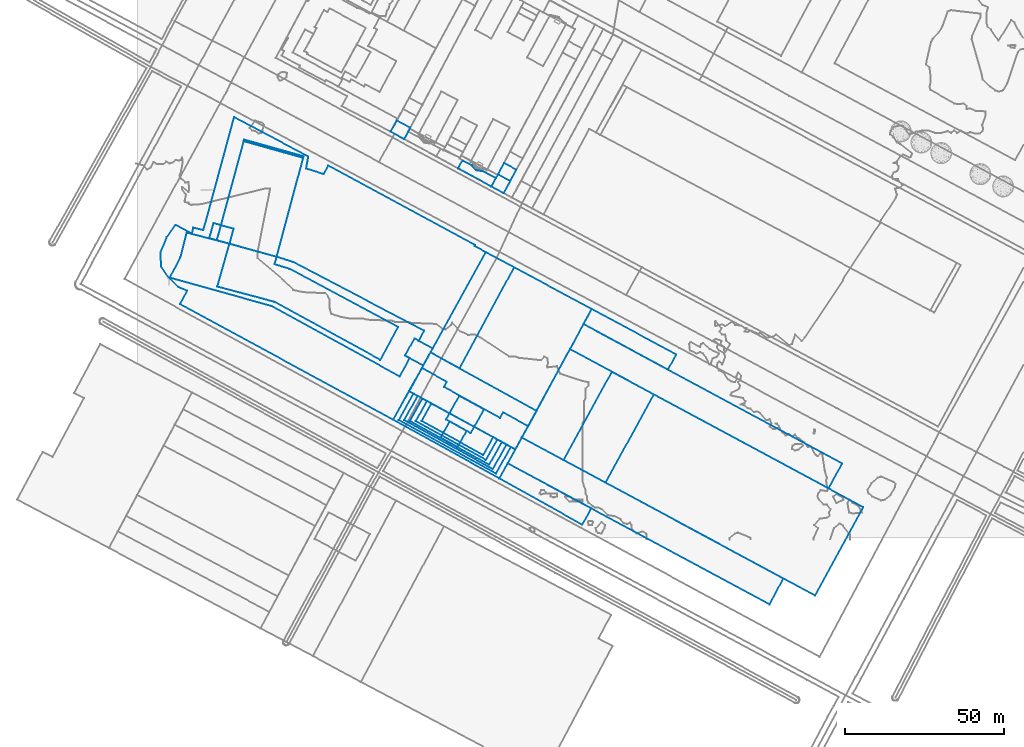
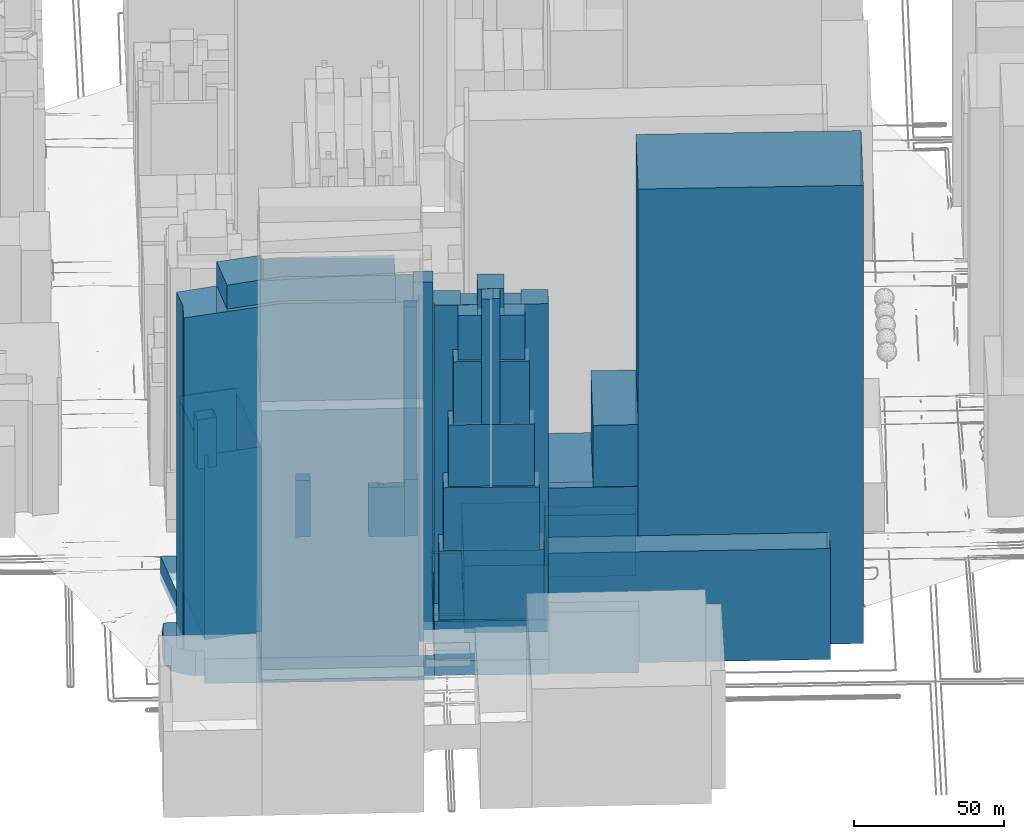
# Not in any storey, part 17 of 80: 31 walls.
"""IFC4 building model written with IfcOpenShell, lengths in metres."""

from ifc_helpers import new_model, si_unit, frame, origin_with_axes, place, context, subcontext, project, spatial, polygons, element, save


model = new_model("IFC4")

# Units and contexts
model_context = context("Model", 3, precision=1e-05, world=origin_with_axes())
body_context = subcontext(model_context, "Body", "Model", "MODEL_VIEW")
ifc_project = project(units=[si_unit("AREAUNIT", "SQUARE_METRE"), si_unit("LENGTHUNIT", "METRE")], contexts=[model_context])

# Sites, building
site_1_placement = place(None, origin_with_axes())
site_1 = spatial("IfcSite", under=ifc_project, at=site_1_placement, Name="Topoexport Site")
site_2_placement = place(site_1_placement, origin_with_axes())
site_2 = spatial("IfcSite", under=site_1, at=site_2_placement, Name="TPX_BATIMENTS")
building_1_placement = place(site_2_placement, frame((114.0067788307, 18.7761491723, 19.812011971), z_axis=(0.0, 0.0, 1.0), x_axis=(1.0, 0.0, 0.0)))
building_1 = spatial("IfcBuilding", under=site_2, at=building_1_placement, Name="Batiment 14", CompositionType="ELEMENT")

# Wall
wall_1_placement = place(None, frame((114.0067788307, 18.7761491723, 19.812011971), z_axis=(0.0, 0.0, 1.0), x_axis=(1.0, 0.0, 0.0)))
element("IfcWall", 1, at=wall_1_placement, inside=building_1, Name="Mur 0", context=body_context, shape_type="Tessellation", body=[
    polygons([(0.0, 0.0, 0.0), (26.1365112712, -14.6177862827, 0.0), (28.9299641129, -9.4671911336, 0.0), (2.6213710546, 4.7044961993, 0.0), (0.0, 0.0, 25.0), (26.1365112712, -14.6177862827, 25.0), (28.9299641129, -9.4671911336, 25.0), (2.6213710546, 4.7044961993, 25.0)], [[[6, 5, 2]], [[2, 5, 1]], [[7, 6, 3]], [[3, 6, 2]], [[5, 8, 1]], [[1, 8, 4]], [[8, 7, 4]], [[4, 7, 3]]]),
])

# Building
building_2_placement = place(site_2_placement, frame((116.6281498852, 23.4806453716, 19.8729106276), z_axis=(0.0, 0.0, 1.0), x_axis=(1.0, 0.0, 0.0)))
building_2 = spatial("IfcBuilding", under=site_2, at=building_2_placement, Name="Batiment 15", CompositionType="ELEMENT")

# Wall
wall_2_placement = place(None, frame((116.6281498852, 23.4806453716, 19.8729106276), z_axis=(0.0, 0.0, 1.0), x_axis=(1.0, 0.0, 0.0)))
element("IfcWall", 2, at=wall_2_placement, inside=building_2, Name="Mur 0", context=body_context, shape_type="Tessellation", body=[
    polygons([(0.0, 0.0, 0.0), (82.4513940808, -44.4055894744, 0.0), (86.7882297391, -36.2283155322, 0.0), (4.4642793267, 8.112091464, 0.0), (0.0, 0.0, 45.0), (82.4513940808, -44.4055894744, 45.0), (86.7882297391, -36.2283155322, 45.0), (4.4642793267, 8.112091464, 45.0)], [[[6, 5, 2]], [[2, 5, 1]], [[7, 6, 3]], [[3, 6, 2]], [[5, 8, 1]], [[1, 8, 4]], [[8, 7, 4]], [[4, 7, 3]]]),
])

# Building
building_3_placement = place(site_2_placement, frame((147.4689145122, 17.3885478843, 19.6016125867), z_axis=(0.0, 0.0, 1.0), x_axis=(1.0, 0.0, 0.0)))
building_3 = spatial("IfcBuilding", under=site_2, at=building_3_placement, Name="Batiment 16", CompositionType="ELEMENT")

# Wall
wall_3_placement = place(None, frame((147.4689145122, 17.3885478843, 19.6016125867), z_axis=(0.0, 0.0, 1.0), x_axis=(1.0, 0.0, 0.0)))
element("IfcWall", 3, at=wall_3_placement, inside=building_3, Name="Mur 0", context=body_context, shape_type="Tessellation", body=[
    polygons([(0.0, 0.0, 0.0), (65.9545168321, -35.5265708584, 0.0), (81.1469833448, -7.7163751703, 0.0), (15.1841917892, 27.8099611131, 0.0), (0.0, 0.0, 186.0), (65.9545168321, -35.5265708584, 186.0), (81.1469833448, -7.7163751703, 186.0), (15.1841917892, 27.8099611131, 186.0)], [[[6, 5, 2]], [[2, 5, 1]], [[7, 6, 3]], [[3, 6, 2]], [[5, 8, 1]], [[1, 8, 4]], [[8, 7, 4]], [[4, 7, 3]]]),
])

# Building
building_4_placement = place(site_2_placement, frame((136.2766873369, 59.4026434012, 19.8866502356), z_axis=(0.0, 0.0, 1.0), x_axis=(1.0, 0.0, 0.0)))
building_4 = spatial("IfcBuilding", under=site_2, at=building_4_placement, Name="Batiment 17", CompositionType="ELEMENT")

# Wall
wall_4_placement = place(None, frame((136.2766873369, 59.4026434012, 19.8866502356), z_axis=(0.0, 0.0, 1.0), x_axis=(1.0, 0.0, 0.0)))
element("IfcWall", 4, at=wall_4_placement, inside=building_4, Name="Mur 0", context=body_context, shape_type="Tessellation", body=[
    polygons([(0.0, 0.0, 0.0), (81.3807730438, -43.8293972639, 0.0), (85.6535269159, -35.9526169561, 0.0), (4.2387920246, 7.8985421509, 0.0), (0.0, 0.0, 45.0), (81.3807730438, -43.8293972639, 45.0), (85.6535269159, -35.9526169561, 45.0), (4.2387920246, 7.8985421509, 45.0)], [[[6, 5, 2]], [[2, 5, 1]], [[7, 6, 3]], [[3, 6, 2]], [[5, 8, 1]], [[1, 8, 4]], [[8, 7, 4]], [[4, 7, 3]]]),
])

# Building
building_5_placement = place(site_2_placement, frame((140.5154793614, 67.301185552, 20.1850862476), z_axis=(0.0, 0.0, 1.0), x_axis=(1.0, 0.0, 0.0)))
building_5 = spatial("IfcBuilding", under=site_2, at=building_5_placement, Name="Batiment 18", CompositionType="ELEMENT")

# Wall
wall_5_placement = place(None, frame((140.5154793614, 67.301185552, 20.1850862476), z_axis=(0.0, 0.0, 1.0), x_axis=(1.0, 0.0, 0.0)))
element("IfcWall", 5, at=wall_5_placement, inside=building_5, Name="Mur 0", context=body_context, shape_type="Tessellation", body=[
    polygons([(0.0, 0.0, 0.0), (26.597401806, -14.3347775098, 0.0), (29.2006844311, -9.5305509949, 0.0), (2.5614786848, 4.7704244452, 0.0), (0.0, 0.0, 25.0), (26.597401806, -14.3347775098, 25.0), (29.2006844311, -9.5305509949, 25.0), (2.5614786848, 4.7704244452, 25.0)], [[[6, 5, 2]], [[2, 5, 1]], [[7, 6, 3]], [[3, 6, 2]], [[5, 8, 1]], [[1, 8, 4]], [[8, 7, 4]], [[4, 7, 3]]]),
])

# Building
building_6_placement = place(site_2_placement, frame((121.0924292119, 31.5927368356, 19.8759564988), z_axis=(0.0, 0.0, 1.0), x_axis=(1.0, 0.0, 0.0)))
building_6 = spatial("IfcBuilding", under=site_2, at=building_6_placement, Name="Batiment 19", CompositionType="ELEMENT")

# Wall
wall_6_placement = place(None, frame((121.0924292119, 31.5927368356, 19.8759564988), z_axis=(0.0, 0.0, 1.0), x_axis=(1.0, 0.0, 0.0)))
element("IfcWall", 6, at=wall_6_placement, inside=building_6, Name="Mur 0", context=body_context, shape_type="Tessellation", body=[
    polygons([(0.0, 0.0, 0.0), (26.3764853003, -14.2041889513, 0.0), (41.5606770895, 13.6057721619, 0.0), (15.1842581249, 27.8099065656, 0.0), (0.0, 0.0, 65.0), (26.3764853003, -14.2041889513, 65.0), (41.5606770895, 13.6057721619, 65.0), (15.1842581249, 27.8099065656, 65.0)], [[[6, 5, 2]], [[2, 5, 1]], [[7, 6, 3]], [[3, 6, 2]], [[5, 8, 1]], [[1, 8, 4]], [[8, 7, 4]], [[4, 7, 3]]]),
])

# Building
building_7_placement = place(site_2_placement, frame((134.2679337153, 24.4960340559, 85.0121369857), z_axis=(0.0, 0.0, 1.0), x_axis=(1.0, 0.0, 0.0)))
building_7 = spatial("IfcBuilding", under=site_2, at=building_7_placement, Name="Batiment 20", CompositionType="ELEMENT")

# Wall
wall_7_placement = place(None, frame((134.2679337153, 24.4960340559, 85.0121369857), z_axis=(0.0, 0.0, 1.0), x_axis=(1.0, 0.0, 0.0)))
element("IfcWall", 7, at=wall_7_placement, inside=building_7, Name="Mur 0", context=body_context, shape_type="Tessellation", body=[
    polygons([(0.0, 0.0, 0.0), (13.2009807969, -7.1074861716, 0.0), (28.3851725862, 20.7024749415, 0.0), (15.1842249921, 27.8099338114, 0.0), (0.0, 0.0, 25.0), (13.2009807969, -7.1074861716, 25.0), (28.3851725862, 20.7024749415, 25.0), (15.1842249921, 27.8099338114, 25.0)], [[[6, 5, 2]], [[2, 5, 1]], [[7, 6, 3]], [[3, 6, 2]], [[5, 8, 1]], [[1, 8, 4]], [[8, 7, 4]], [[4, 7, 3]]]),
])

# Building
building_8_placement = place(site_2_placement, frame((80.6336597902, 37.2179875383, 19.5500389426), z_axis=(0.0, 0.0, 1.0), x_axis=(1.0, 0.0, 0.0)))
building_8 = spatial("IfcBuilding", under=site_2, at=building_8_placement, Name="Batiment 21", CompositionType="ELEMENT")

# Wall
wall_8_placement = place(None, frame((80.6336597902, 37.2179875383, 19.5500389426), z_axis=(0.0, 0.0, 1.0), x_axis=(1.0, 0.0, 0.0)))
element("IfcWall", 8, at=wall_8_placement, inside=building_8, Name="Mur 0", context=body_context, shape_type="Tessellation", body=[
    polygons([(0.0, 0.0, 0.0), (33.3731190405, -18.441838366, 0.0), (45.0971948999, 2.7553209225, 0.0), (11.6985592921, 21.2190134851, 0.0), (0.0, 0.0, 6.0), (33.3731190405, -18.441838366, 6.0), (45.0971948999, 2.7553209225, 6.0), (11.6985592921, 21.2190134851, 6.0)], [[[6, 5, 2]], [[2, 5, 1]], [[7, 6, 3]], [[3, 6, 2]], [[5, 8, 1]], [[1, 8, 4]], [[8, 7, 4]], [[4, 7, 3]]]),
])

# Building
building_9_placement = place(site_2_placement, frame((97.2544970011, 37.2888688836, 19.612828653), z_axis=(0.0, 0.0, 1.0), x_axis=(1.0, 0.0, 0.0)))
building_9 = spatial("IfcBuilding", under=site_2, at=building_9_placement, Name="Batiment 22", CompositionType="ELEMENT")

# Wall
wall_9_placement = place(None, frame((97.2544970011, 37.2888688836, 19.612828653), z_axis=(0.0, 0.0, 1.0), x_axis=(1.0, 0.0, 0.0)))
element("IfcWall", 9, at=wall_9_placement, inside=building_9, Name="Mur 0", context=body_context, shape_type="Tessellation", body=[
    polygons([(0.0, 0.0, 0.0), (7.7655788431, -4.295199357, 0.0), (11.9084198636, 3.14701657, 0.0), (4.1512866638, 7.4423095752, 0.0), (0.0, 0.0, 151.0), (7.7655788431, -4.295199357, 151.0), (11.9084198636, 3.14701657, 151.0), (4.1512866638, 7.4423095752, 151.0)], [[[6, 5, 2]], [[2, 5, 1]], [[7, 6, 3]], [[3, 6, 2]], [[5, 8, 1]], [[1, 8, 4]], [[8, 7, 4]], [[4, 7, 3]]]),
])

# Building
building_10_placement = place(site_2_placement, frame((85.6283664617, 46.1799867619, 19.6882360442), z_axis=(0.0, 0.0, 1.0), x_axis=(1.0, 0.0, 0.0)))
building_10 = spatial("IfcBuilding", under=site_2, at=building_10_placement, Name="Batiment 23", CompositionType="ELEMENT")

# Wall
wall_10_placement = place(None, frame((85.6283664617, 46.1799867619, 19.6882360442), z_axis=(0.0, 0.0, 1.0), x_axis=(1.0, 0.0, 0.0)))
element("IfcWall", 10, at=wall_10_placement, inside=building_10, Name="Mur 0", context=body_context, shape_type="Tessellation", body=[
    polygons([(0.0, 0.0, 0.0), (33.4391985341, -18.3189230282, 0.0), (37.4908592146, -11.0220874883, 0.0), (29.5893203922, -6.650770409, 0.0), (28.6218928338, -8.3939587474, 0.0), (10.9668168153, 1.3597031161, 0.0), (11.8682699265, 2.9688959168, 0.0), (4.0518112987, 7.2857163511, 0.0), (0.0, 0.0, 143.0), (33.4391985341, -18.3189230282, 143.0), (37.4908592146, -11.0220874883, 143.0), (29.5893203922, -6.650770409, 143.0), (28.6218928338, -8.3939587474, 143.0), (10.9668168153, 1.3597031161, 143.0), (11.8682699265, 2.9688959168, 143.0), (4.0518112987, 7.2857163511, 143.0)], [[[10, 9, 2]], [[2, 9, 1]], [[11, 10, 3]], [[3, 10, 2]], [[12, 11, 4]], [[4, 11, 3]], [[13, 12, 5]], [[5, 12, 4]], [[14, 13, 6]], [[6, 13, 5]], [[15, 14, 7]], [[7, 14, 6]], [[9, 16, 1]], [[1, 16, 8]], [[16, 15, 8]], [[8, 15, 7]]]),
])

# Building
building_11_placement = place(site_2_placement, frame((89.6801777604, 53.465703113, 19.6964299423), z_axis=(0.0, 0.0, 1.0), x_axis=(1.0, 0.0, 0.0)))
building_11 = spatial("IfcBuilding", under=site_2, at=building_11_placement, Name="Batiment 24", CompositionType="ELEMENT")

# Wall
wall_11_placement = place(None, frame((89.6801777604, 53.465703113, 19.6964299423), z_axis=(0.0, 0.0, 1.0), x_axis=(1.0, 0.0, 0.0)))
element("IfcWall", 11, at=wall_11_placement, inside=building_11, Name="Mur 0", context=body_context, shape_type="Tessellation", body=[
    polygons([(0.0, 0.0, 0.0), (7.8164586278, -4.3168204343, 0.0), (6.9150055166, -5.926013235, 0.0), (24.5700815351, -15.6796750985, 0.0), (25.5375090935, -13.9364867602, 0.0), (33.4390479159, -18.3078038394, 0.0), (36.0506769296, -13.4923946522, 0.0), (2.6520413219, 4.9712979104, 0.0), (0.0, 0.0, 25.0), (7.8164586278, -4.3168204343, 25.0), (6.9150055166, -5.926013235, 25.0), (24.5700815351, -15.6796750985, 25.0), (25.5375090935, -13.9364867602, 25.0), (33.4390479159, -18.3078038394, 25.0), (36.0506769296, -13.4923946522, 25.0), (2.6520413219, 4.9712979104, 25.0)], [[[10, 9, 2]], [[2, 9, 1]], [[11, 10, 3]], [[3, 10, 2]], [[12, 11, 4]], [[4, 11, 3]], [[13, 12, 5]], [[5, 12, 4]], [[14, 13, 6]], [[6, 13, 5]], [[15, 14, 7]], [[7, 14, 6]], [[9, 16, 1]], [[1, 16, 8]], [[16, 15, 8]], [[8, 15, 7]]]),
])

# Building
building_12_placement = place(site_2_placement, frame((101.457152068, 53.3915293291, 19.7455046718), z_axis=(0.0, 0.0, 1.0), x_axis=(1.0, 0.0, 0.0)))
building_12 = spatial("IfcBuilding", under=site_2, at=building_12_placement, Name="Batiment 25", CompositionType="ELEMENT")

# Wall
wall_12_placement = place(None, frame((101.457152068, 53.3915293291, 19.7455046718), z_axis=(0.0, 0.0, 1.0), x_axis=(1.0, 0.0, 0.0)))
element("IfcWall", 12, at=wall_12_placement, inside=building_12, Name="Mur 0", context=body_context, shape_type="Tessellation", body=[
    polygons([(0.0, 0.0, 0.0), (24.273702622, -13.4182208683, 0.0), (41.6198059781, 18.6800806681, 0.0), (17.2230477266, 31.7970531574, 0.0), (0.0, 0.0, 27.2000007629), (24.273702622, -13.4182208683, 27.2000007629), (41.6198059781, 18.6800806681, 27.2000007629), (17.2230477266, 31.7970531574, 27.2000007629)], [[[6, 5, 2]], [[2, 5, 1]], [[7, 6, 3]], [[3, 6, 2]], [[5, 8, 1]], [[1, 8, 4]], [[8, 7, 4]], [[4, 7, 3]]]),
])

# Building
building_13_placement = place(site_2_placement, frame((92.3322190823, 58.4370010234, 26.7455046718), z_axis=(0.0, 0.0, 1.0), x_axis=(1.0, 0.0, 0.0)))
building_13 = spatial("IfcBuilding", under=site_2, at=building_13_placement, Name="Batiment 26", CompositionType="ELEMENT")

# Wall
wall_13_placement = place(None, frame((92.3322190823, 58.4370010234, 26.7455046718), z_axis=(0.0, 0.0, 1.0), x_axis=(1.0, 0.0, 0.0)))
element("IfcWall", 13, at=wall_13_placement, inside=building_13, Name="Mur 0", context=body_context, shape_type="Tessellation", body=[
    polygons([(0.0, 0.0, 0.0), (9.1249329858, -5.0454716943, 0.0), (26.3479807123, 26.751581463, 0.0), (17.4371802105, 31.5330646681, 0.0), (0.0, 0.0, 1.0), (9.1249329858, -5.0454716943, 1.0), (26.3479807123, 26.751581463, 1.0), (17.4371802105, 31.5330646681, 1.0)], [[[6, 5, 2]], [[2, 5, 1]], [[7, 6, 3]], [[3, 6, 2]], [[5, 8, 1]], [[1, 8, 4]], [[8, 7, 4]], [[4, 7, 3]]]),
])

# Building
building_14_placement = place(site_2_placement, frame((111.5045105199, 110.6515077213, 20.6975796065), z_axis=(0.0, 0.0, 1.0), x_axis=(1.0, 0.0, 0.0)))
building_14 = spatial("IfcBuilding", under=site_2, at=building_14_placement, Name="Batiment 28", CompositionType="ELEMENT")

# Wall
wall_14_placement = place(None, frame((111.5045105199, 110.6515077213, 20.6975796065), z_axis=(0.0, 0.0, 1.0), x_axis=(1.0, 0.0, 0.0)))
element("IfcWall", 14, at=wall_14_placement, inside=building_14, Name="Mur 0", context=body_context, shape_type="Tessellation", body=[
    polygons([(0.0, 0.0, 0.0), (3.9161944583, -2.1194488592, 0.0), (5.9481877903, 1.7233296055, 0.0), (2.0830242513, 3.8100633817, 0.0), (0.0, 0.0, 23.0), (3.9161944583, -2.1194488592, 23.0), (5.9481877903, 1.7233296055, 23.0), (2.0830242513, 3.8100633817, 23.0)], [[[6, 5, 2]], [[2, 5, 1]], [[7, 6, 3]], [[3, 6, 2]], [[5, 8, 1]], [[1, 8, 4]], [[8, 7, 4]], [[4, 7, 3]]]),
])

# Building
building_15_placement = place(site_2_placement, frame((101.0554515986, 116.3255174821, 20.7066671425), z_axis=(0.0, 0.0, 1.0), x_axis=(1.0, 0.0, 0.0)))
building_15 = spatial("IfcBuilding", under=site_2, at=building_15_placement, Name="Batiment 32", CompositionType="ELEMENT")

# Wall
wall_15_placement = place(None, frame((101.0554515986, 116.3255174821, 20.7066671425), z_axis=(0.0, 0.0, 1.0), x_axis=(1.0, 0.0, 0.0)))
element("IfcWall", 15, at=wall_15_placement, inside=building_15, Name="Mur 0", context=body_context, shape_type="Tessellation", body=[
    polygons([(0.0, 0.0, 0.0), (10.4490589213, -5.6740097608, 0.0), (11.8959655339, -3.0592762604, 0.0), (7.7933107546, -0.875378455, 0.0), (5.7130921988, -0.5664729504, 0.0), (4.3532680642, 0.949843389, 0.0), (1.3463972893, 2.5469505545, 0.0), (0.0, 0.0, 20.0), (10.4490589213, -5.6740097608, 20.0), (11.8959655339, -3.0592762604, 20.0), (7.7933107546, -0.875378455, 20.0), (5.7130921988, -0.5664729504, 20.0), (4.3532680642, 0.949843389, 20.0), (1.3463972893, 2.5469505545, 20.0)], [[[9, 8, 2]], [[2, 8, 1]], [[10, 9, 3]], [[3, 9, 2]], [[11, 10, 4]], [[4, 10, 3]], [[12, 11, 5]], [[5, 11, 4]], [[13, 12, 6]], [[6, 12, 5]], [[8, 14, 1]], [[1, 14, 7]], [[14, 13, 7]], [[7, 13, 6]]]),
])

# Building
building_16_placement = place(site_2_placement, frame((113.5875347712, 114.461571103, 20.7566379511), z_axis=(0.0, 0.0, 1.0), x_axis=(1.0, 0.0, 0.0)))
building_16 = spatial("IfcBuilding", under=site_2, at=building_16_placement, Name="Batiment 36", CompositionType="ELEMENT")

# Wall
wall_16_placement = place(None, frame((113.5875347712, 114.461571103, 20.7566379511), z_axis=(0.0, 0.0, 1.0), x_axis=(1.0, 0.0, 0.0)))
element("IfcWall", 16, at=wall_16_placement, inside=building_16, Name="Mur 0", context=body_context, shape_type="Tessellation", body=[
    polygons([(0.0, 0.0, 0.0), (3.8651635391, -2.0867337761, 0.0), (5.7992221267, 1.4662491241, 0.0), (1.9000401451, 3.5747912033, 0.0), (0.0, 0.0, 90.0), (3.8651635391, -2.0867337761, 90.0), (5.7992221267, 1.4662491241, 90.0), (1.9000401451, 3.5747912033, 90.0)], [[[6, 5, 2]], [[2, 5, 1]], [[7, 6, 3]], [[3, 6, 2]], [[5, 8, 1]], [[1, 8, 4]], [[8, 7, 4]], [[4, 7, 3]]]),
])

# Building
building_17_placement = place(site_2_placement, frame((79.7834254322, 127.8912834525, 20.9495116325), z_axis=(0.0, 0.0, 1.0), x_axis=(1.0, 0.0, 0.0)))
building_17 = spatial("IfcBuilding", under=site_2, at=building_17_placement, Name="Batiment 194", CompositionType="ELEMENT")

# Wall
wall_17_placement = place(None, frame((79.7834254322, 127.8912834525, 20.9495116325), z_axis=(0.0, 0.0, 1.0), x_axis=(1.0, 0.0, 0.0)))
element("IfcWall", 17, at=wall_17_placement, inside=building_17, Name="Mur 0", context=body_context, shape_type="Tessellation", body=[
    polygons([(0.0, 0.0, 0.0), (4.3157123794, -2.3590755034, 0.0), (6.2321287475, 1.260307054, 0.0), (1.9932839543, 3.5425582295, 0.0), (0.0, 0.0, 23.0), (4.3157123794, -2.3590755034, 23.0), (6.2321287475, 1.260307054, 23.0), (1.9932839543, 3.5425582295, 23.0)], [[[6, 5, 2]], [[2, 5, 1]], [[7, 6, 3]], [[3, 6, 2]], [[5, 8, 1]], [[1, 8, 4]], [[8, 7, 4]], [[4, 7, 3]]]),
])

# Building
building_18_placement = place(site_2_placement, frame((22.7189740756, 94.3773567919, 88.9019969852), z_axis=(0.0, 0.0, 1.0), x_axis=(1.0, 0.0, 0.0)))
building_18 = spatial("IfcBuilding", under=site_2, at=building_18_placement, Name="Batiment 199", CompositionType="ELEMENT")

# Wall
wall_18_placement = place(None, frame((22.7189740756, 94.3773567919, 88.9019969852), z_axis=(0.0, 0.0, 1.0), x_axis=(1.0, 0.0, 0.0)))
element("IfcWall", 18, at=wall_18_placement, inside=building_18, Name="Mur 0", context=body_context, shape_type="Tessellation", body=[
    polygons([(0.0, 0.0, 0.0), (6.3601779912, -1.7691695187, 0.0), (7.681097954, 2.9757163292, 0.0), (1.3210524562, 4.7337839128, 0.0), (0.0, 0.0, 20.0), (6.3601779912, -1.7691695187, 20.0), (7.681097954, 2.9757163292, 20.0), (1.3210524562, 4.7337839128, 20.0)], [[[6, 5, 2]], [[2, 5, 1]], [[7, 6, 3]], [[3, 6, 2]], [[5, 8, 1]], [[1, 8, 4]], [[8, 7, 4]], [[4, 7, 3]]]),
])

# Building
building_19_placement = place(site_2_placement, frame((25.0902924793, 93.7165336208, 19.1898978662), z_axis=(0.0, 0.0, 1.0), x_axis=(1.0, 0.0, 0.0)))
building_19 = spatial("IfcBuilding", under=site_2, at=building_19_placement, Name="Batiment 200", CompositionType="ELEMENT")

# Wall
wall_19_placement = place(None, frame((25.0902924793, 93.7165336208, 19.1898978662), z_axis=(0.0, 0.0, 1.0), x_axis=(1.0, 0.0, 0.0)))
element("IfcWall", 19, at=wall_19_placement, inside=building_19, Name="Mur 0", context=body_context, shape_type="Tessellation", body=[
    polygons([(0.0, 0.0, 0.0), (18.8092921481, -5.2107143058, 0.0), (27.1849139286, 25.928386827, 0.0), (8.4934731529, 31.1737525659, 0.0), (0.0, 0.0, 75.0), (18.8092921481, -5.2107143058, 75.0), (27.1849139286, 25.928386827, 75.0), (8.4934731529, 31.1737525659, 75.0)], [[[6, 5, 2]], [[2, 5, 1]], [[7, 6, 3]], [[3, 6, 2]], [[5, 8, 1]], [[1, 8, 4]], [[8, 7, 4]], [[4, 7, 3]]]),
])

# Building
building_20_placement = place(site_2_placement, frame((33.5837656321, 124.8902861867, 21.1228938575), z_axis=(0.0, 0.0, 1.0), x_axis=(1.0, 0.0, 0.0)))
building_20 = spatial("IfcBuilding", under=site_2, at=building_20_placement, Name="Batiment 201", CompositionType="ELEMENT")

# Wall
wall_20_placement = place(None, frame((33.5837656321, 124.8902861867, 21.1228938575), z_axis=(0.0, 0.0, 1.0), x_axis=(1.0, 0.0, 0.0)))
element("IfcWall", 20, at=wall_20_placement, inside=building_20, Name="Mur 0", context=body_context, shape_type="Tessellation", body=[
    polygons([(0.0, 0.0, 0.0), (18.6914407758, -5.2453657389, 0.0), (18.8375703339, -4.7440683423, 0.0), (0.1460018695, 0.512397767, 0.0), (0.0, 0.0, 75.0), (18.6914407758, -5.2453657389, 75.0), (18.8375703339, -4.7440683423, 75.0), (0.1460018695, 0.512397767, 75.0)], [[[6, 5, 2]], [[2, 5, 1]], [[7, 6, 3]], [[3, 6, 2]], [[5, 8, 1]], [[1, 8, 4]], [[8, 7, 4]], [[4, 7, 3]]]),
])

# Building
building_21_placement = place(site_2_placement, frame((7.3491025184, 89.8136402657, 17.7214611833), z_axis=(0.0, 0.0, 1.0), x_axis=(1.0, 0.0, 0.0)))
building_21 = spatial("IfcBuilding", under=site_2, at=building_21_placement, Name="Batiment 206", CompositionType="ELEMENT")

# Wall
wall_21_placement = place(None, frame((7.3491025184, 89.8136402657, 17.7214611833), z_axis=(0.0, 0.0, 1.0), x_axis=(1.0, 0.0, 0.0)))
element("IfcWall", 21, at=wall_21_placement, inside=building_21, Name="Mur 0", context=body_context, shape_type="Tessellation", body=[
    polygons([(0.0, 0.0, 0.0), (0.2453875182, -4.415847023, 0.0), (2.6154001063, -7.8744561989, 0.0), (5.7231550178, -10.8915176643, 0.0), (8.4542586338, -12.0033616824, 0.0), (6.1566151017, -16.2377711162, 0.0), (73.2845572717, -52.5956527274, 0.0), (102.4202967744, 0.1564254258, 0.0), (98.8779250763, 2.0692765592, 0.0), (99.0514359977, 2.3932571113, 0.0), (52.8636652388, 27.4365171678, 0.0), (51.4007622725, 24.7438929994, 0.0), (45.8767148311, 26.4783333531, 0.0), (46.5332031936, 30.282922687, 0.0), (23.1839558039, 42.6351800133, 0.0), (13.5007386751, 7.051135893, 0.0), (10.3255164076, 7.8802686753, 0.0), (9.9255178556, 5.9771433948, 0.0), (4.7352910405, 8.7702011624, 0.0), (2.0193040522, 4.9417221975, 0.0), (0.0, 0.0, 10.0), (0.2453875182, -4.415847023, 10.0), (2.6154001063, -7.8744561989, 10.0), (5.7231550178, -10.8915176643, 10.0), (8.4542586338, -12.0033616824, 10.0), (6.1566151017, -16.2377711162, 10.0), (73.2845572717, -52.5956527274, 10.0), (102.4202967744, 0.1564254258, 10.0), (98.8779250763, 2.0692765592, 10.0), (99.0514359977, 2.3932571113, 10.0), (52.8636652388, 27.4365171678, 10.0), (51.4007622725, 24.7438929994, 10.0), (45.8767148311, 26.4783333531, 10.0), (46.5332031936, 30.282922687, 10.0), (23.1839558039, 42.6351800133, 10.0), (13.5007386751, 7.051135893, 10.0), (10.3255164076, 7.8802686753, 10.0), (9.9255178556, 5.9771433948, 10.0), (4.7352910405, 8.7702011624, 10.0), (2.0193040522, 4.9417221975, 10.0)], [[[22, 21, 2]], [[2, 21, 1]], [[23, 22, 3]], [[3, 22, 2]], [[24, 23, 4]], [[4, 23, 3]], [[25, 24, 5]], [[5, 24, 4]], [[26, 25, 6]], [[6, 25, 5]], [[27, 26, 7]], [[7, 26, 6]], [[28, 27, 8]], [[8, 27, 7]], [[29, 28, 9]], [[9, 28, 8]], [[30, 29, 10]], [[10, 29, 9]], [[31, 30, 11]], [[11, 30, 10]], [[32, 31, 12]], [[12, 31, 11]], [[33, 32, 13]], [[13, 32, 12]], [[34, 33, 14]], [[14, 33, 13]], [[35, 34, 15]], [[15, 34, 14]], [[36, 35, 16]], [[16, 35, 15]], [[37, 36, 17]], [[17, 36, 16]], [[38, 37, 18]], [[18, 37, 17]], [[39, 38, 19]], [[19, 38, 18]], [[21, 40, 1]], [[1, 40, 20]], [[40, 39, 20]], [[20, 39, 19]]]),
])

# Building
building_22_placement = place(site_2_placement, frame((25.2509816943, 79.141148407, 19.2330182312), z_axis=(0.0, 0.0, 1.0), x_axis=(1.0, 0.0, 0.0)))
building_22 = spatial("IfcBuilding", under=site_2, at=building_22_placement, Name="Batiment 207", CompositionType="ELEMENT")

# Wall
wall_22_placement = place(None, frame((25.2509816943, 79.141148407, 19.2330182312), z_axis=(0.0, 0.0, 1.0), x_axis=(1.0, 0.0, 0.0)))
element("IfcWall", 22, at=wall_22_placement, inside=building_22, Name="Mur 0", context=body_context, shape_type="Tessellation", body=[
    polygons([(0.0, 0.0, 0.0), (18.0873774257, -4.830514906, 0.0), (51.3228673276, -23.0742728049, 0.0), (56.8754076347, -12.7180175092, 0.0), (22.7612366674, 5.593231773, 0.0), (18.0174305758, 7.0147710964, 0.0), (18.648602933, 9.3646709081, 0.0), (3.8281703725, 13.4670388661, 0.0), (0.0, 0.0, 152.6999969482), (18.0873774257, -4.830514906, 152.6999969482), (51.3228673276, -23.0742728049, 152.6999969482), (56.8754076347, -12.7180175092, 152.6999969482), (22.7612366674, 5.593231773, 152.6999969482), (18.0174305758, 7.0147710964, 152.6999969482), (18.648602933, 9.3646709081, 152.6999969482), (3.8281703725, 13.4670388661, 152.6999969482)], [[[10, 9, 2]], [[2, 9, 1]], [[11, 10, 3]], [[3, 10, 2]], [[12, 11, 4]], [[4, 11, 3]], [[13, 12, 5]], [[5, 12, 4]], [[14, 13, 6]], [[6, 13, 5]], [[15, 14, 7]], [[7, 14, 6]], [[9, 16, 1]], [[1, 16, 8]], [[16, 15, 8]], [[8, 15, 7]]]),
])

# Building
building_23_placement = place(site_2_placement, frame((84.3328700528, 57.422623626, 19.717099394), z_axis=(0.0, 0.0, 1.0), x_axis=(1.0, 0.0, 0.0)))
building_23 = spatial("IfcBuilding", under=site_2, at=building_23_placement, Name="Batiment 208", CompositionType="ELEMENT")

# Wall
wall_23_placement = place(None, frame((84.3328700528, 57.422623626, 19.717099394), z_axis=(0.0, 0.0, 1.0), x_axis=(1.0, 0.0, 0.0)))
element("IfcWall", 23, at=wall_23_placement, inside=building_23, Name="Mur 0", context=body_context, shape_type="Tessellation", body=[
    polygons([(0.0, 0.0, 0.0), (5.7007108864, -3.131250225, 0.0), (8.685731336, 2.2435956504, 0.0), (2.9850231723, 5.3748435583, 0.0), (0.0, 0.0, 146.0), (5.7007108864, -3.131250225, 146.0), (8.685731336, 2.2435956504, 146.0), (2.9850231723, 5.3748435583, 146.0)], [[[6, 5, 2]], [[2, 5, 1]], [[7, 6, 3]], [[3, 6, 2]], [[5, 8, 1]], [[1, 8, 4]], [[8, 7, 4]], [[4, 7, 3]]]),
])

# Building
building_24_placement = place(site_2_placement, frame((89.5609801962, 36.8331506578, 19.6677865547), z_axis=(0.0, 0.0, 1.0), x_axis=(1.0, 0.0, 0.0)))
building_24 = spatial("IfcBuilding", under=site_2, at=building_24_placement, Name="Batiment 209", CompositionType="ELEMENT")

# Wall
wall_24_placement = place(None, frame((89.5609801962, 36.8331506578, 19.6677865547), z_axis=(0.0, 0.0, 1.0), x_axis=(1.0, 0.0, 0.0)))
element("IfcWall", 24, at=wall_24_placement, inside=building_24, Name="Mur 0", context=body_context, shape_type="Tessellation", body=[
    polygons([(0.0, 0.0, 0.0), (19.4138892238, -10.7324529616, 0.0), (22.5396898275, -5.1228171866, 0.0), (3.0597039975, 5.4867351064, 0.0), (0.0, 0.0, 143.0), (19.4138892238, -10.7324529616, 143.0), (22.5396898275, -5.1228171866, 143.0), (3.0597039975, 5.4867351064, 143.0)], [[[6, 5, 2]], [[2, 5, 1]], [[7, 6, 3]], [[3, 6, 2]], [[5, 8, 1]], [[1, 8, 4]], [[8, 7, 4]], [[4, 7, 3]]]),
])

# Building
building_25_placement = place(site_2_placement, frame((87.7213295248, 36.7784814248, 19.6583385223), z_axis=(0.0, 0.0, 1.0), x_axis=(1.0, 0.0, 0.0)))
building_25 = spatial("IfcBuilding", under=site_2, at=building_25_placement, Name="Batiment 210", CompositionType="ELEMENT")

# Wall
wall_25_placement = place(None, frame((87.7213295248, 36.7784814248, 19.6583385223), z_axis=(0.0, 0.0, 1.0), x_axis=(1.0, 0.0, 0.0)))
element("IfcWall", 25, at=wall_25_placement, inside=building_25, Name="Mur 0", context=body_context, shape_type="Tessellation", body=[
    polygons([(0.0, 0.0, 0.0), (22.0733143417, -12.2114746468, 0.0), (25.6622439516, -5.774892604, 0.0), (24.3793404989, -5.0681479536, 0.0), (21.2535398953, -10.6777837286, 0.0), (1.8396506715, 0.054669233, 0.0), (4.8993546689, 5.5414043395, 0.0), (3.514524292, 6.3024800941, 0.0), (0.0, 0.0, 125.0), (22.0733143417, -12.2114746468, 125.0), (25.6622439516, -5.774892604, 125.0), (24.3793404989, -5.0681479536, 125.0), (21.2535398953, -10.6777837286, 125.0), (1.8396506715, 0.054669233, 125.0), (4.8993546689, 5.5414043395, 125.0), (3.514524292, 6.3024800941, 125.0)], [[[10, 9, 2]], [[2, 9, 1]], [[11, 10, 3]], [[3, 10, 2]], [[12, 11, 4]], [[4, 11, 3]], [[13, 12, 5]], [[5, 12, 4]], [[14, 13, 6]], [[6, 13, 5]], [[15, 14, 7]], [[7, 14, 6]], [[9, 16, 1]], [[1, 16, 8]], [[16, 15, 8]], [[8, 15, 7]]]),
])

# Building
building_26_placement = place(site_2_placement, frame((85.863250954, 36.8568256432, 19.6310872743), z_axis=(0.0, 0.0, 1.0), x_axis=(1.0, 0.0, 0.0)))
building_26 = spatial("IfcBuilding", under=site_2, at=building_26_placement, Name="Batiment 211", CompositionType="ELEMENT")

# Wall
wall_26_placement = place(None, frame((85.863250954, 36.8568256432, 19.6310872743), z_axis=(0.0, 0.0, 1.0), x_axis=(1.0, 0.0, 0.0)))
element("IfcWall", 26, at=wall_26_placement, inside=building_26, Name="Mur 0", context=body_context, shape_type="Tessellation", body=[
    polygons([(0.0, 0.0, 0.0), (24.9704931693, -13.8098599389, 0.0), (28.9646281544, -6.6469244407, 0.0), (27.5203225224, -5.8532368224, 0.0), (23.9313929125, -12.2898188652, 0.0), (1.8580785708, -0.0783442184, 0.0), (5.3726028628, 6.2241358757, 0.0), (3.9197328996, 7.0288307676, 0.0), (0.0, 0.0, 100.0), (24.9704931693, -13.8098599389, 100.0), (28.9646281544, -6.6469244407, 100.0), (27.5203225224, -5.8532368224, 100.0), (23.9313929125, -12.2898188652, 100.0), (1.8580785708, -0.0783442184, 100.0), (5.3726028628, 6.2241358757, 100.0), (3.9197328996, 7.0288307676, 100.0)], [[[10, 9, 2]], [[2, 9, 1]], [[11, 10, 3]], [[3, 10, 2]], [[12, 11, 4]], [[4, 11, 3]], [[13, 12, 5]], [[5, 12, 4]], [[14, 13, 6]], [[6, 13, 5]], [[15, 14, 7]], [[7, 14, 6]], [[9, 16, 1]], [[1, 16, 8]], [[16, 15, 8]], [[8, 15, 7]]]),
])

# Building
building_27_placement = place(site_2_placement, frame((80.6336597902, 37.2179875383, 19.5500389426), z_axis=(0.0, 0.0, 1.0), x_axis=(1.0, 0.0, 0.0)))
building_27 = spatial("IfcBuilding", under=site_2, at=building_27_placement, Name="Batiment 212", CompositionType="ELEMENT")

# Wall
wall_27_placement = place(None, frame((80.6336597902, 37.2179875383, 19.5500389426), z_axis=(0.0, 0.0, 1.0), x_axis=(1.0, 0.0, 0.0)))
element("IfcWall", 27, at=wall_27_placement, inside=building_27, Name="Mur 0", context=body_context, shape_type="Tessellation", body=[
    polygons([(0.0, 0.0, 0.0), (33.3731190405, -18.441838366, 0.0), (38.4339052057, -9.3569238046, 0.0), (37.006479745, -8.5630409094, 0.0), (32.3260927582, -16.9662987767, 0.0), (1.7566630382, -0.0684208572, 0.0), (6.3625259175, 8.2118271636, 0.0), (4.9947066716, 8.9619992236, 0.0), (0.0, 0.0, 22.0), (33.3731190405, -18.441838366, 22.0), (38.4339052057, -9.3569238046, 22.0), (37.006479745, -8.5630409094, 22.0), (32.3260927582, -16.9662987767, 22.0), (1.7566630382, -0.0684208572, 22.0), (6.3625259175, 8.2118271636, 22.0), (4.9947066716, 8.9619992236, 22.0)], [[[10, 9, 2]], [[2, 9, 1]], [[11, 10, 3]], [[3, 10, 2]], [[12, 11, 4]], [[4, 11, 3]], [[13, 12, 5]], [[5, 12, 4]], [[14, 13, 6]], [[6, 13, 5]], [[15, 14, 7]], [[7, 14, 6]], [[9, 16, 1]], [[1, 16, 8]], [[16, 15, 8]], [[8, 15, 7]]]),
])

# Building
building_28_placement = place(site_2_placement, frame((95.5478595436, 31.5958001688, 119.6064738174), z_axis=(0.0, 0.0, 1.0), x_axis=(1.0, 0.0, 0.0)))
building_28 = spatial("IfcBuilding", under=site_2, at=building_28_placement, Name="Batiment 213", CompositionType="ELEMENT")

# Wall
wall_28_placement = place(None, frame((95.5478595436, 31.5958001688, 119.6064738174), z_axis=(0.0, 0.0, 1.0), x_axis=(1.0, 0.0, 0.0)))
element("IfcWall", 28, at=wall_28_placement, inside=building_28, Name="Mur 0", context=body_context, shape_type="Tessellation", body=[
    polygons([(0.0, 0.0, 0.0), (5.335986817, -2.9800465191, 0.0), (8.1807445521, 2.1156181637, 0.0), (2.8367063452, 5.0622623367, 0.0), (0.0, 0.0, 51.0), (5.335986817, -2.9800465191, 51.0), (8.1807445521, 2.1156181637, 51.0), (2.8367063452, 5.0622623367, 51.0)], [[[6, 5, 2]], [[2, 5, 1]], [[7, 6, 3]], [[3, 6, 2]], [[5, 8, 1]], [[1, 8, 4]], [[8, 7, 4]], [[4, 7, 3]]]),
])

# Building
building_29_placement = place(site_2_placement, frame((84.0707632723, 37.1024656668, 19.6050347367), z_axis=(0.0, 0.0, 1.0), x_axis=(1.0, 0.0, 0.0)))
building_29 = spatial("IfcBuilding", under=site_2, at=building_29_placement, Name="Batiment 214", CompositionType="ELEMENT")

# Wall
wall_29_placement = place(None, frame((84.0707632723, 37.1024656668, 19.6050347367), z_axis=(0.0, 0.0, 1.0), x_axis=(1.0, 0.0, 0.0)))
element("IfcWall", 29, at=wall_29_placement, inside=building_29, Name="Mur 0", context=body_context, shape_type="Tessellation", body=[
    polygons([(0.0, 0.0, 0.0), (27.9101325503, -15.4299566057, 0.0), (32.2099912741, -7.6972545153, 0.0), (30.757115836, -6.8925644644, 0.0), (26.7629808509, -14.0554999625, 0.0), (1.7924876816, -0.2456400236, 0.0), (5.7122205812, 6.783190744, 0.0), (4.233900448, 7.5986926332, 0.0), (0.0, 0.0, 75.0), (27.9101325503, -15.4299566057, 75.0), (32.2099912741, -7.6972545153, 75.0), (30.757115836, -6.8925644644, 75.0), (26.7629808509, -14.0554999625, 75.0), (1.7924876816, -0.2456400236, 75.0), (5.7122205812, 6.783190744, 75.0), (4.233900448, 7.5986926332, 75.0)], [[[10, 9, 2]], [[2, 9, 1]], [[11, 10, 3]], [[3, 10, 2]], [[12, 11, 4]], [[4, 11, 3]], [[13, 12, 5]], [[5, 12, 4]], [[14, 13, 6]], [[6, 13, 5]], [[15, 14, 7]], [[7, 14, 6]], [[9, 16, 1]], [[1, 16, 8]], [[16, 15, 8]], [[8, 15, 7]]]),
])

# Building
building_30_placement = place(site_2_placement, frame((82.3903228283, 37.1495666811, 19.5783829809), z_axis=(0.0, 0.0, 1.0), x_axis=(1.0, 0.0, 0.0)))
building_30 = spatial("IfcBuilding", under=site_2, at=building_30_placement, Name="Batiment 215", CompositionType="ELEMENT")

# Wall
wall_30_placement = place(None, frame((82.3903228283, 37.1495666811, 19.5783829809), z_axis=(0.0, 0.0, 1.0), x_axis=(1.0, 0.0, 0.0)))
element("IfcWall", 30, at=wall_30_placement, inside=building_30, Name="Mur 0", context=body_context, shape_type="Tessellation", body=[
    polygons([(0.0, 0.0, 0.0), (30.5694297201, -16.8978779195, 0.0), (35.2498167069, -8.4946200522, 0.0), (33.8904317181, -7.7443555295, 0.0), (29.5905729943, -15.47705762, 0.0), (1.680440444, -0.0471010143, 0.0), (5.914340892, 7.5515916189, 0.0), (4.6058628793, 8.2802480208, 0.0), (0.0, 0.0, 50.0), (30.5694297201, -16.8978779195, 50.0), (35.2498167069, -8.4946200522, 50.0), (33.8904317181, -7.7443555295, 50.0), (29.5905729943, -15.47705762, 50.0), (1.680440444, -0.0471010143, 50.0), (5.914340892, 7.5515916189, 50.0), (4.6058628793, 8.2802480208, 50.0)], [[[10, 9, 2]], [[2, 9, 1]], [[11, 10, 3]], [[3, 10, 2]], [[12, 11, 4]], [[4, 11, 3]], [[13, 12, 5]], [[5, 12, 4]], [[14, 13, 6]], [[6, 13, 5]], [[15, 14, 7]], [[7, 14, 6]], [[9, 16, 1]], [[1, 16, 8]], [[16, 15, 8]], [[8, 15, 7]]]),
])

# Building
building_31_placement = place(site_2_placement, frame((10.2935527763, 81.9541038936, 18.1747184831), z_axis=(0.0, 0.0, 1.0), x_axis=(1.0, 0.0, 0.0)))
building_31 = spatial("IfcBuilding", under=site_2, at=building_31_placement, Name="Batiment 217", CompositionType="ELEMENT")

# Wall
wall_31_placement = place(None, frame((10.2935527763, 81.9541038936, 18.1747184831), z_axis=(0.0, 0.0, 1.0), x_axis=(1.0, 0.0, 0.0)))
element("IfcWall", 31, at=wall_31_placement, inside=building_31, Name="Mur 0", context=body_context, shape_type="Tessellation", body=[
    polygons([(0.0, 0.0, 0.0), (32.0809116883, -8.9647227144, 0.0), (72.4107688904, -31.1340236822, 0.0), (75.4666046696, -25.3142687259, 0.0), (74.0393172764, -24.5314802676, 0.0), (77.0243404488, -19.1566367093, 0.0), (78.3921568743, -19.9068084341, 0.0), (80.0687125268, -16.7120963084, 0.0), (38.8417037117, 4.9360451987, 0.0), (33.606031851, 6.5517154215, 0.0), (32.9748594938, 4.2018156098, 0.0), (37.7186655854, 2.7802762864, 0.0), (71.8328365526, -15.5309729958, 0.0), (66.2802962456, -25.8872282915, 0.0), (33.0448063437, -7.6434703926, 0.0), (14.957428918, -2.8129554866, 0.0), (18.7855992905, 10.6540833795, 0.0), (5.3227427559, 14.1616083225, 0.0), (3.3283605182, 6.3446916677, 0.0), (0.0, 0.0, 144.0), (32.0809116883, -8.9647227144, 144.0), (72.4107688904, -31.1340236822, 144.0), (75.4666046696, -25.3142687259, 144.0), (74.0393172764, -24.5314802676, 144.0), (77.0243404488, -19.1566367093, 144.0), (78.3921568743, -19.9068084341, 144.0), (80.0687125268, -16.7120963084, 144.0), (38.8417037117, 4.9360451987, 144.0), (33.606031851, 6.5517154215, 144.0), (32.9748594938, 4.2018156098, 144.0), (37.7186655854, 2.7802762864, 144.0), (71.8328365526, -15.5309729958, 144.0), (66.2802962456, -25.8872282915, 144.0), (33.0448063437, -7.6434703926, 144.0), (14.957428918, -2.8129554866, 144.0), (18.7855992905, 10.6540833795, 144.0), (5.3227427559, 14.1616083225, 144.0), (3.3283605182, 6.3446916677, 144.0)], [[[21, 20, 2]], [[2, 20, 1]], [[22, 21, 3]], [[3, 21, 2]], [[23, 22, 4]], [[4, 22, 3]], [[24, 23, 5]], [[5, 23, 4]], [[25, 24, 6]], [[6, 24, 5]], [[26, 25, 7]], [[7, 25, 6]], [[27, 26, 8]], [[8, 26, 7]], [[28, 27, 9]], [[9, 27, 8]], [[29, 28, 10]], [[10, 28, 9]], [[30, 29, 11]], [[11, 29, 10]], [[31, 30, 12]], [[12, 30, 11]], [[32, 31, 13]], [[13, 31, 12]], [[33, 32, 14]], [[14, 32, 13]], [[34, 33, 15]], [[15, 33, 14]], [[35, 34, 16]], [[16, 34, 15]], [[36, 35, 17]], [[17, 35, 16]], [[37, 36, 18]], [[18, 36, 17]], [[20, 38, 1]], [[1, 38, 19]], [[38, 37, 19]], [[19, 37, 18]]]),
])

save(model, "model.ifc")
